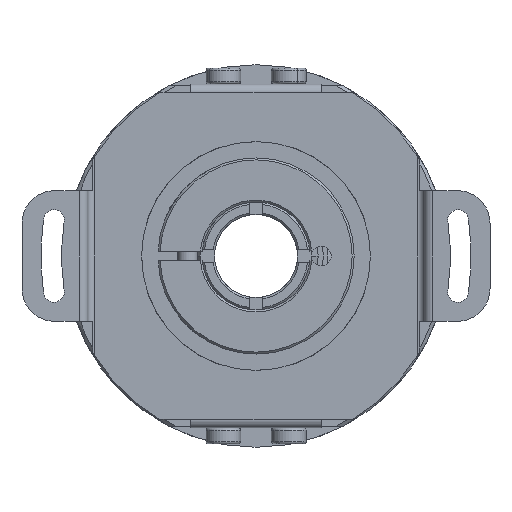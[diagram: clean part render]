
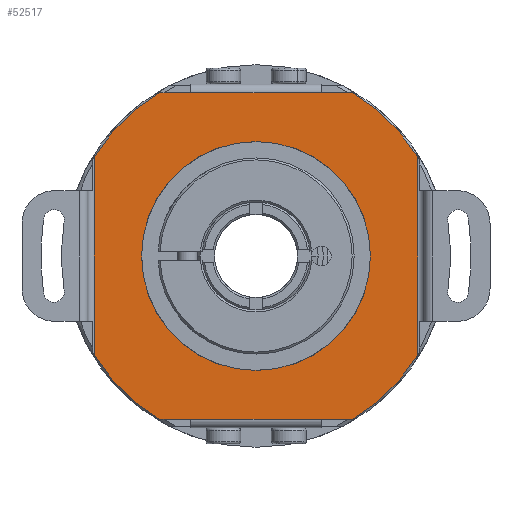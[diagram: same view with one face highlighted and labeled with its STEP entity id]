
A CAD part, front view. The second image highlights one B-rep face of the part: STEP entity #52517.
In plain terms, the highlighted planar face has unit normal (0, -1, 0).
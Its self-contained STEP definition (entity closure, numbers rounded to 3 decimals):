
#819 = CARTESIAN_POINT ( 'NONE',  ( -24.7, -4.194, -15.196 ) ) ;
#1824 = ORIENTED_EDGE ( 'NONE', *, *, #3388, .F. ) ;
#2257 = ORIENTED_EDGE ( 'NONE', *, *, #46309, .T. ) ;
#2443 = EDGE_CURVE ( 'NONE', #27260, #22100, #29187, .T. ) ;
#2550 = EDGE_CURVE ( 'NONE', #9988, #30440, #39310, .T. ) ;
#3388 = EDGE_CURVE ( 'NONE', #23619, #14861, #39093, .T. ) ;
#3527 = LINE ( 'NONE', #26734, #34633 ) ;
#4100 = DIRECTION ( 'NONE',  ( -1., 0., 0. ) ) ;
#4588 = DIRECTION ( 'NONE',  ( 0., 0., 1. ) ) ;
#4604 = EDGE_CURVE ( 'NONE', #27260, #30440, #50771, .T. ) ;
#5281 = PLANE ( 'NONE',  #52629 ) ;
#6102 = VERTEX_POINT ( 'NONE', #29501 ) ;
#6215 = EDGE_CURVE ( 'NONE', #23619, #24771, #25046, .T. ) ;
#6279 = DIRECTION ( 'NONE',  ( 0., -1., 0. ) ) ;
#6299 = CARTESIAN_POINT ( 'NONE',  ( -14.697, -4.194, 25. ) ) ;
#7044 = ORIENTED_EDGE ( 'NONE', *, *, #6215, .T. ) ;
#7250 = VERTEX_POINT ( 'NONE', #26006 ) ;
#9724 = EDGE_LOOP ( 'NONE', ( #25380, #41264 ) ) ;
#9760 = EDGE_CURVE ( 'NONE', #7250, #37590, #32704, .T. ) ;
#9988 = VERTEX_POINT ( 'NONE', #6299 ) ;
#11039 = CARTESIAN_POINT ( 'NONE',  ( 0., -4.194, 0. ) ) ;
#11207 = ORIENTED_EDGE ( 'NONE', *, *, #29607, .F. ) ;
#11814 = AXIS2_PLACEMENT_3D ( 'NONE', #38730, #38551, #38368 ) ;
#12101 = AXIS2_PLACEMENT_3D ( 'NONE', #50505, #33878, #30661 ) ;
#12120 = VERTEX_POINT ( 'NONE', #37008 ) ;
#12629 = ORIENTED_EDGE ( 'NONE', *, *, #4604, .T. ) ;
#12633 = VECTOR ( 'NONE', #32720, 1000. ) ;
#13292 = DIRECTION ( 'NONE',  ( -1., 0., 0. ) ) ;
#13451 = CARTESIAN_POINT ( 'NONE',  ( -5., -4.194, -35.2 ) ) ;
#13702 = FACE_BOUND ( 'NONE', #9724, .T. ) ;
#13758 = CARTESIAN_POINT ( 'NONE',  ( 0., -4.194, 0. ) ) ;
#14268 = DIRECTION ( 'NONE',  ( 0., 0., -1. ) ) ;
#14861 = VERTEX_POINT ( 'NONE', #38188 ) ;
#15059 = DIRECTION ( 'NONE',  ( 0., 0., -1. ) ) ;
#15322 = DIRECTION ( 'NONE',  ( 0., 0., -1. ) ) ;
#15386 = EDGE_CURVE ( 'NONE', #37496, #12120, #3527, .T. ) ;
#16050 = LINE ( 'NONE', #16285, #37683 ) ;
#16285 = CARTESIAN_POINT ( 'NONE',  ( -25., -4.194, -25. ) ) ;
#16789 = AXIS2_PLACEMENT_3D ( 'NONE', #35628, #22584, #15322 ) ;
#17027 = DIRECTION ( 'NONE',  ( 1., 0., 0. ) ) ;
#17093 = DIRECTION ( 'NONE',  ( 0., -1., 0. ) ) ;
#17869 = CARTESIAN_POINT ( 'NONE',  ( 14.697, -4.194, 25. ) ) ;
#18820 = ORIENTED_EDGE ( 'NONE', *, *, #2443, .F. ) ;
#20726 = ORIENTED_EDGE ( 'NONE', *, *, #50760, .F. ) ;
#21063 = CIRCLE ( 'NONE', #12101, 29. ) ;
#21404 = CARTESIAN_POINT ( 'NONE',  ( 10., -4.194, -25. ) ) ;
#21702 = DIRECTION ( 'NONE',  ( 0., 0., -1. ) ) ;
#22100 = VERTEX_POINT ( 'NONE', #17869 ) ;
#22584 = DIRECTION ( 'NONE',  ( 0., -1., 0. ) ) ;
#23048 = DIRECTION ( 'NONE',  ( 0., 1., 0. ) ) ;
#23190 = FACE_OUTER_BOUND ( 'NONE', #37047, .T. ) ;
#23291 = EDGE_CURVE ( 'NONE', #37590, #7250, #44250, .T. ) ;
#23619 = VERTEX_POINT ( 'NONE', #819 ) ;
#23865 = AXIS2_PLACEMENT_3D ( 'NONE', #11039, #23048, #15059 ) ;
#24332 = CARTESIAN_POINT ( 'NONE',  ( -5., -4.194, 25. ) ) ;
#24771 = VERTEX_POINT ( 'NONE', #26726 ) ;
#25046 = CIRCLE ( 'NONE', #11814, 29. ) ;
#25380 = ORIENTED_EDGE ( 'NONE', *, *, #9760, .F. ) ;
#26006 = CARTESIAN_POINT ( 'NONE',  ( 0., -4.194, -17.5 ) ) ;
#26726 = CARTESIAN_POINT ( 'NONE',  ( -14.697, -4.194, -25. ) ) ;
#26734 = CARTESIAN_POINT ( 'NONE',  ( -5., -4.194, -25. ) ) ;
#27260 = VERTEX_POINT ( 'NONE', #33205 ) ;
#27558 = DIRECTION ( 'NONE',  ( 0., 0., 1. ) ) ;
#28973 = CARTESIAN_POINT ( 'NONE',  ( 14.697, -4.194, -25. ) ) ;
#29187 = LINE ( 'NONE', #42102, #48205 ) ;
#29309 = EDGE_CURVE ( 'NONE', #12120, #24771, #16050, .T. ) ;
#29501 = CARTESIAN_POINT ( 'NONE',  ( 24.7, -4.194, -15.196 ) ) ;
#29555 = VECTOR ( 'NONE', #27558, 1000. ) ;
#29607 = EDGE_CURVE ( 'NONE', #14861, #9988, #21063, .T. ) ;
#30097 = VECTOR ( 'NONE', #13292, 1000. ) ;
#30440 = VERTEX_POINT ( 'NONE', #40935 ) ;
#30661 = DIRECTION ( 'NONE',  ( 0., 0., 1. ) ) ;
#32511 = DIRECTION ( 'NONE',  ( -1., 0., 0. ) ) ;
#32534 = CARTESIAN_POINT ( 'NONE',  ( -10., -4.194, 25. ) ) ;
#32704 = CIRCLE ( 'NONE', #47583, 17.5 ) ;
#32720 = DIRECTION ( 'NONE',  ( 1., 0., 0. ) ) ;
#33022 = VECTOR ( 'NONE', #4588, 1000. ) ;
#33205 = CARTESIAN_POINT ( 'NONE',  ( 10., -4.194, 25. ) ) ;
#33274 = LINE ( 'NONE', #21404, #30097 ) ;
#33878 = DIRECTION ( 'NONE',  ( 0., 1., 0. ) ) ;
#34282 = LINE ( 'NONE', #40463, #33022 ) ;
#34633 = VECTOR ( 'NONE', #47123, 1000. ) ;
#35469 = CIRCLE ( 'NONE', #23865, 29. ) ;
#35628 = CARTESIAN_POINT ( 'NONE',  ( 0., -4.194, 0. ) ) ;
#35715 = ORIENTED_EDGE ( 'NONE', *, *, #43857, .F. ) ;
#36632 = AXIS2_PLACEMENT_3D ( 'NONE', #38412, #6279, #42860 ) ;
#37008 = CARTESIAN_POINT ( 'NONE',  ( -10., -4.194, -25. ) ) ;
#37047 = EDGE_LOOP ( 'NONE', ( #1824, #7044, #51811, #47268, #20726, #35715, #44441, #2257, #18820, #12629, #46795, #11207 ) ) ;
#37483 = VECTOR ( 'NONE', #32511, 1000. ) ;
#37496 = VERTEX_POINT ( 'NONE', #50161 ) ;
#37590 = VERTEX_POINT ( 'NONE', #51387 ) ;
#37676 = CIRCLE ( 'NONE', #36632, 29. ) ;
#37683 = VECTOR ( 'NONE', #4100, 1000. ) ;
#38188 = CARTESIAN_POINT ( 'NONE',  ( -24.7, -4.194, 15.196 ) ) ;
#38368 = DIRECTION ( 'NONE',  ( 0., 0., -1. ) ) ;
#38412 = CARTESIAN_POINT ( 'NONE',  ( 0., -4.194, 0. ) ) ;
#38551 = DIRECTION ( 'NONE',  ( 0., -1., 0. ) ) ;
#38730 = CARTESIAN_POINT ( 'NONE',  ( 0., -4.194, 0. ) ) ;
#39093 = LINE ( 'NONE', #47413, #29555 ) ;
#39310 = LINE ( 'NONE', #32534, #12633 ) ;
#40463 = CARTESIAN_POINT ( 'NONE',  ( 24.7, -4.194, -35.2 ) ) ;
#40935 = CARTESIAN_POINT ( 'NONE',  ( -10., -4.194, 25. ) ) ;
#41264 = ORIENTED_EDGE ( 'NONE', *, *, #23291, .F. ) ;
#41502 = DIRECTION ( 'NONE',  ( 0., -1., 0. ) ) ;
#42102 = CARTESIAN_POINT ( 'NONE',  ( 25., -4.194, 25. ) ) ;
#42860 = DIRECTION ( 'NONE',  ( 1., 0., 0. ) ) ;
#43857 = EDGE_CURVE ( 'NONE', #6102, #51852, #35469, .T. ) ;
#44017 = CARTESIAN_POINT ( 'NONE',  ( 24.7, -4.194, 15.196 ) ) ;
#44250 = CIRCLE ( 'NONE', #16789, 17.5 ) ;
#44441 = ORIENTED_EDGE ( 'NONE', *, *, #49241, .T. ) ;
#46309 = EDGE_CURVE ( 'NONE', #48379, #22100, #37676, .T. ) ;
#46795 = ORIENTED_EDGE ( 'NONE', *, *, #2550, .F. ) ;
#47123 = DIRECTION ( 'NONE',  ( -1., 0., 0. ) ) ;
#47268 = ORIENTED_EDGE ( 'NONE', *, *, #15386, .F. ) ;
#47413 = CARTESIAN_POINT ( 'NONE',  ( -24.7, -4.194, -35.2 ) ) ;
#47583 = AXIS2_PLACEMENT_3D ( 'NONE', #13758, #17093, #21702 ) ;
#48205 = VECTOR ( 'NONE', #17027, 1000. ) ;
#48379 = VERTEX_POINT ( 'NONE', #44017 ) ;
#49241 = EDGE_CURVE ( 'NONE', #6102, #48379, #34282, .T. ) ;
#50161 = CARTESIAN_POINT ( 'NONE',  ( 10., -4.194, -25. ) ) ;
#50505 = CARTESIAN_POINT ( 'NONE',  ( 0., -4.194, 0. ) ) ;
#50760 = EDGE_CURVE ( 'NONE', #51852, #37496, #33274, .T. ) ;
#50771 = LINE ( 'NONE', #24332, #37483 ) ;
#51387 = CARTESIAN_POINT ( 'NONE',  ( 0., -4.194, 17.5 ) ) ;
#51811 = ORIENTED_EDGE ( 'NONE', *, *, #29309, .F. ) ;
#51852 = VERTEX_POINT ( 'NONE', #28973 ) ;
#52517 = ADVANCED_FACE ( 'NONE', ( #23190, #13702 ), #5281, .T. ) ;
#52629 = AXIS2_PLACEMENT_3D ( 'NONE', #13451, #41502, #14268 ) ;
